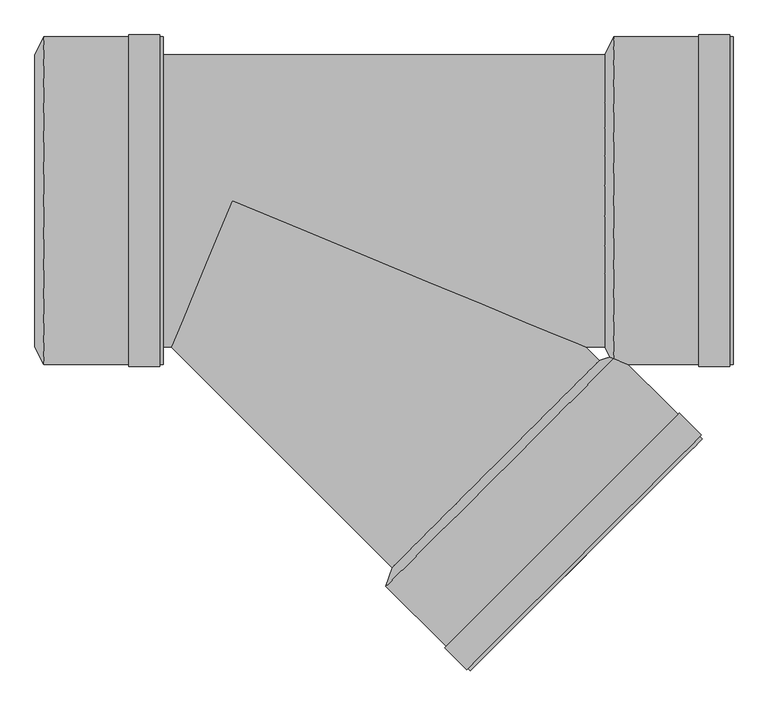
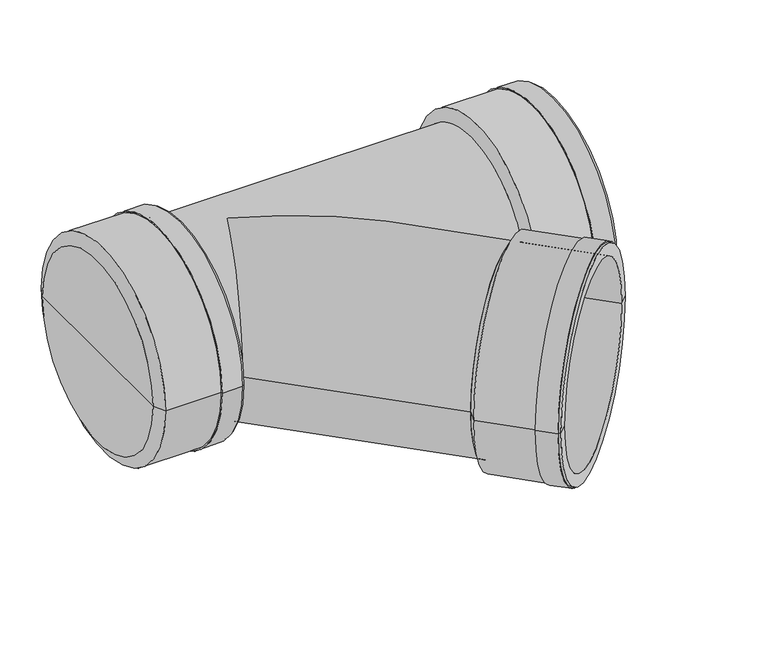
"""IFC4 building model written with IfcOpenShell, lengths in millimetres: pipe fitting geometry, pf_KGEA : pf_KGEA."""

from ifc_helpers import new_model, si_unit, frame, origin, place, context, project, spatial, polyline, circle_curve, ellipse_curve, source, transform, mapped, element, save
from ifc_brep_helpers import plane_surface, cylinder_surface, revolved_surface, advanced_brep


def pipe_fitting_b3f756ff(model_context):
    return source(origin(), model_context, "Body", "AdvancedBrep", [
        advanced_brep(
        [(273.3674816, -626.9208722, 0.0), (626.9208722, -273.3674816, 0.0), (658.8820987, -262.7608799, 0.0), (262.7608799, -658.8820987, 0.0), (450.1441769, -450.1441769, 0.0), (406.9399526, -803.0611714, 0.0), (803.0611714, -406.9399526, 0.0), (781.7772573, -428.2238667, 0.0), (428.2238667, -781.7772573, 0.0), (402.8387332, -798.9599521, 0.0), (798.9599521, -402.8387332, 0.0), (400.4345702, -801.3641151, 0.0), (801.3641151, -400.4345702, 0.0), (363.0286215, -763.9581664, 0.0), (763.9581664, -363.0286215, 0.0), (365.4327845, -761.5540033, 0.0), (761.5540033, -365.4327845, 0.0), (284.044794, -637.5981846, 0.0), (637.5981846, -284.044794, 0.0), (460.8214893, -460.8214893, 0.0)],
        [
            (0, 1, circle_curve(frame((450.1441769, -450.1441769, 0.0), z_axis=(0.7071067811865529, -0.7071067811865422, 0.0), x_axis=(0.7071067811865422, 0.7071067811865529, 0.0)), 250.0)),
            (1, 2),
            (2, 3, circle_curve(frame((460.8214893, -460.8214893, 0.0), z_axis=(-0.7071067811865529, 0.7071067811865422, 0.0), x_axis=(0.7071067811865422, 0.7071067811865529, 0.0)), 280.1)),
            (3, 0),
            (1, 0, circle_curve(frame((450.1441769, -450.1441769, 0.0), z_axis=(0.7071067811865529, -0.7071067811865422, 0.0), x_axis=(0.7071067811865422, 0.7071067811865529, 0.0)), 250.0)),
            (3, 2, circle_curve(frame((460.8214893, -460.8214893, 0.0), z_axis=(-0.7071067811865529, 0.7071067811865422, 0.0), x_axis=(0.7071067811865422, 0.7071067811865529, 0.0)), 280.1)),
            (4, 1),
            (0, 4),
            (5, 6, circle_curve(frame((605.000562, -605.000562, 0.0), z_axis=(0.7071067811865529, -0.7071067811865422, 0.0), x_axis=(0.7071067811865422, 0.7071067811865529, 0.0)), 280.1)),
            (6, 7),
            (7, 8, circle_curve(frame((605.000562, -605.000562, 0.0), z_axis=(-0.7071067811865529, 0.7071067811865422, 0.0), x_axis=(0.7071067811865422, 0.7071067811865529, 0.0)), 250.0)),
            (8, 5),
            (6, 5, circle_curve(frame((605.000562, -605.000562, 0.0), z_axis=(0.7071067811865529, -0.7071067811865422, 0.0), x_axis=(0.7071067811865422, 0.7071067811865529, 0.0)), 280.1)),
            (8, 7, circle_curve(frame((605.000562, -605.000562, 0.0), z_axis=(-0.7071067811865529, 0.7071067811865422, 0.0), x_axis=(0.7071067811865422, 0.7071067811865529, 0.0)), 250.0)),
            (9, 10, circle_curve(frame((600.8993427, -600.8993427, 0.0), z_axis=(0.7071067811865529, -0.7071067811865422, 0.0), x_axis=(0.7071067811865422, 0.7071067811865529, 0.0)), 280.1)),
            (10, 6),
            (5, 9),
            (10, 9, circle_curve(frame((600.8993427, -600.8993427, 0.0), z_axis=(0.7071067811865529, -0.7071067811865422, 0.0), x_axis=(0.7071067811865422, 0.7071067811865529, 0.0)), 280.1)),
            (11, 12, circle_curve(frame((600.8993427, -600.8993427, 0.0), z_axis=(0.7071067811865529, -0.7071067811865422, 0.0), x_axis=(0.7071067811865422, 0.7071067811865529, 0.0)), 283.5)),
            (12, 10),
            (9, 11),
            (12, 11, circle_curve(frame((600.8993427, -600.8993427, 0.0), z_axis=(0.7071067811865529, -0.7071067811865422, 0.0), x_axis=(0.7071067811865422, 0.7071067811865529, 0.0)), 283.5)),
            (13, 14, circle_curve(frame((563.4933939, -563.4933939, 0.0), z_axis=(0.7071067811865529, -0.7071067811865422, 0.0), x_axis=(0.7071067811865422, 0.7071067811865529, 0.0)), 283.5)),
            (14, 12),
            (11, 13),
            (14, 13, circle_curve(frame((563.4933939, -563.4933939, 0.0), z_axis=(0.7071067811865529, -0.7071067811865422, 0.0), x_axis=(0.7071067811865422, 0.7071067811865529, 0.0)), 283.5)),
            (15, 16, circle_curve(frame((563.4933939, -563.4933939, 0.0), z_axis=(0.7071067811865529, -0.7071067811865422, 0.0), x_axis=(0.7071067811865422, 0.7071067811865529, 0.0)), 280.1)),
            (16, 14),
            (13, 15),
            (16, 15, circle_curve(frame((563.4933939, -563.4933939, 0.0), z_axis=(0.7071067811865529, -0.7071067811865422, 0.0), x_axis=(0.7071067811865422, 0.7071067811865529, 0.0)), 280.1)),
            (2, 16),
            (15, 3),
            (17, 18, circle_curve(frame((460.8214893, -460.8214893, 0.0), z_axis=(0.7071067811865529, -0.7071067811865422, 0.0), x_axis=(0.7071067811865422, 0.7071067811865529, 0.0)), 250.0)),
            (18, 19),
            (19, 17),
            (18, 17, circle_curve(frame((460.8214893, -460.8214893, 0.0), z_axis=(0.7071067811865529, -0.7071067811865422, 0.0), x_axis=(0.7071067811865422, 0.7071067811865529, 0.0)), 250.0)),
            (7, 18),
            (17, 8),
        ],
        [
            revolved_surface(polyline([(658.8820987, -262.7608799, 0.0), (626.9208722, -273.3674816, 0.0)]), (450.1441769, -450.1441769, 0.0), (-0.7071067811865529, 0.7071067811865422, 0.0)),
            plane_surface(frame((450.1441769, -450.1441769, 0.0), z_axis=(-0.7071067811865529, 0.7071067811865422, 0.0), x_axis=(0.7071067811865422, 0.7071067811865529, 0.0))),
            plane_surface(frame((605.000562, -605.000562, 0.0), z_axis=(0.7071067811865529, -0.7071067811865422, 0.0), x_axis=(0.7071067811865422, 0.7071067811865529, 0.0))),
            cylinder_surface(frame((450.1441769, -450.1441769, 0.0), z_axis=(-0.7071067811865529, 0.7071067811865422, 0.0), x_axis=(0.7071067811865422, 0.7071067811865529, 0.0)), 280.1),
            plane_surface(frame((600.8993427, -600.8993427, 0.0), z_axis=(0.7071067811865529, -0.7071067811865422, 0.0), x_axis=(0.7071067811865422, 0.7071067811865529, 0.0))),
            cylinder_surface(frame((450.1441769, -450.1441769, 0.0), z_axis=(-0.7071067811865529, 0.7071067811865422, 0.0), x_axis=(0.7071067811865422, 0.7071067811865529, 0.0)), 283.5),
            plane_surface(frame((563.4933939, -563.4933939, 0.0), z_axis=(-0.7071067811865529, 0.7071067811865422, 0.0), x_axis=(0.7071067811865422, 0.7071067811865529, 0.0))),
            plane_surface(frame((460.8214893, -460.8214893, 0.0), z_axis=(0.7071067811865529, -0.7071067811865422, 0.0), x_axis=(0.7071067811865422, 0.7071067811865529, 0.0))),
            revolved_surface(polyline([(637.5981845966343, -284.0447940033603, 0.0), (781.777257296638, -428.2238667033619, 0.0)]), (450.1441769, -450.1441769, 0.0), (-0.7071067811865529, 0.7071067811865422, 0.0)),
        ],
        [
            (0, [[1, 2, 3, 4]]),
            (0, [[5, -4, 6, -2]]),
            (1, [[7, -1, 8]]),
            (1, [[-8, -5, -7]]),
            (2, [[9, 10, 11, 12]]),
            (2, [[13, -12, 14, -10]]),
            (3, [[15, 16, -9, 17]]),
            (3, [[18, -17, -13, -16]]),
            (4, [[19, 20, -15, 21]]),
            (4, [[22, -21, -18, -20]]),
            (5, [[23, 24, -19, 25]]),
            (5, [[26, -25, -22, -24]]),
            (6, [[27, 28, -23, 29]]),
            (6, [[30, -29, -26, -28]]),
            (3, [[-3, 31, -27, 32]]),
            (3, [[-6, -32, -30, -31]]),
            (7, [[33, 34, 35]]),
            (7, [[36, -35, -34]]),
            (8, [[-11, 37, -33, 38]]),
            (8, [[-14, -38, -36, -37]]),
        ],
    ),
        advanced_brep(
        [(636.6, -250.0, 0.0), (636.6, 250.0, 0.0), (651.7, 280.1, 0.0), (651.7, -280.1, 0.0), (636.6, 0.0, 0.0), (855.6, -280.1, 0.0), (855.6, 280.1, 0.0), (855.6, 250.0, 0.0), (855.6, -250.0, 0.0), (849.8, -280.1, 0.0), (849.8, 280.1, 0.0), (849.8, -283.5, 0.0), (849.8, 283.5, 0.0), (796.9, -283.5, 0.0), (796.9, 283.5, 0.0), (796.9, -280.1, 0.0), (796.9, 280.1, 0.0), (651.7, -250.0, 0.0), (651.7, 250.0, 0.0), (651.7, 0.0, 0.0)],
        [
            (0, 1, circle_curve(frame((636.6, 0.0, 0.0), z_axis=(1.0, 0.0, 0.0), x_axis=(0.0, 1.0, 0.0)), 250.0)),
            (1, 2),
            (2, 3, circle_curve(frame((651.7, 0.0, 0.0), z_axis=(-1.0, 0.0, 0.0), x_axis=(0.0, 1.0, 0.0)), 280.1)),
            (3, 0),
            (1, 0, circle_curve(frame((636.6, 0.0, 0.0), z_axis=(1.0, 0.0, 0.0), x_axis=(0.0, 1.0, 0.0)), 250.0)),
            (3, 2, circle_curve(frame((651.7, 0.0, 0.0), z_axis=(-1.0, 0.0, 0.0), x_axis=(0.0, 1.0, 0.0)), 280.1)),
            (4, 1),
            (0, 4),
            (5, 6, circle_curve(frame((855.6, 0.0, 0.0), z_axis=(1.0, 0.0, 0.0), x_axis=(0.0, 1.0, 0.0)), 280.1)),
            (6, 7),
            (7, 8, circle_curve(frame((855.6, 0.0, 0.0), z_axis=(-1.0, 0.0, 0.0), x_axis=(0.0, 1.0, 0.0)), 250.0)),
            (8, 5),
            (6, 5, circle_curve(frame((855.6, 0.0, 0.0), z_axis=(1.0, 0.0, 0.0), x_axis=(0.0, 1.0, 0.0)), 280.1)),
            (8, 7, circle_curve(frame((855.6, 0.0, 0.0), z_axis=(-1.0, 0.0, 0.0), x_axis=(0.0, 1.0, 0.0)), 250.0)),
            (9, 10, circle_curve(frame((849.8, 0.0, 0.0), z_axis=(1.0, 0.0, 0.0), x_axis=(0.0, 1.0, 0.0)), 280.1)),
            (10, 6),
            (5, 9),
            (10, 9, circle_curve(frame((849.8, 0.0, 0.0), z_axis=(1.0, 0.0, 0.0), x_axis=(0.0, 1.0, 0.0)), 280.1)),
            (11, 12, circle_curve(frame((849.8, 0.0, 0.0), z_axis=(1.0, 0.0, 0.0), x_axis=(0.0, 1.0, 0.0)), 283.5)),
            (12, 10),
            (9, 11),
            (12, 11, circle_curve(frame((849.8, 0.0, 0.0), z_axis=(1.0, 0.0, 0.0), x_axis=(0.0, 1.0, 0.0)), 283.5)),
            (13, 14, circle_curve(frame((796.9, 0.0, 0.0), z_axis=(1.0, 0.0, 0.0), x_axis=(0.0, 1.0, 0.0)), 283.5)),
            (14, 12),
            (11, 13),
            (14, 13, circle_curve(frame((796.9, 0.0, 0.0), z_axis=(1.0, 0.0, 0.0), x_axis=(0.0, 1.0, 0.0)), 283.5)),
            (15, 16, circle_curve(frame((796.9, 0.0, 0.0), z_axis=(1.0, 0.0, 0.0), x_axis=(0.0, 1.0, 0.0)), 280.1)),
            (16, 14),
            (13, 15),
            (16, 15, circle_curve(frame((796.9, 0.0, 0.0), z_axis=(1.0, 0.0, 0.0), x_axis=(0.0, 1.0, 0.0)), 280.1)),
            (2, 16),
            (15, 3),
            (17, 18, circle_curve(frame((651.7, 0.0, 0.0), z_axis=(1.0, 0.0, 0.0), x_axis=(0.0, 1.0, 0.0)), 250.0)),
            (18, 19),
            (19, 17),
            (18, 17, circle_curve(frame((651.7, 0.0, 0.0), z_axis=(1.0, 0.0, 0.0), x_axis=(0.0, 1.0, 0.0)), 250.0)),
            (7, 18),
            (17, 8),
        ],
        [
            revolved_surface(polyline([(651.7, 280.1, 0.0), (636.6, 250.0, 0.0)]), (636.6, 0.0, 0.0), (-1.0, 0.0, 0.0)),
            plane_surface(frame((636.6, 0.0, 0.0), z_axis=(-1.0, 0.0, 0.0), x_axis=(0.0, 1.0, 0.0))),
            plane_surface(frame((855.6, 0.0, 0.0), z_axis=(1.0, 0.0, 0.0), x_axis=(0.0, 1.0, 0.0))),
            cylinder_surface(frame((636.6, 0.0, 0.0), z_axis=(-1.0, 0.0, 0.0), x_axis=(0.0, 1.0, 0.0)), 280.1),
            plane_surface(frame((849.8, 0.0, 0.0), z_axis=(1.0, 0.0, 0.0), x_axis=(0.0, 1.0, 0.0))),
            cylinder_surface(frame((636.6, 0.0, 0.0), z_axis=(-1.0, 0.0, 0.0), x_axis=(0.0, 1.0, 0.0)), 283.5),
            plane_surface(frame((796.9, 0.0, 0.0), z_axis=(-1.0, 0.0, 0.0), x_axis=(0.0, 1.0, 0.0))),
            plane_surface(frame((651.7, 0.0, 0.0), z_axis=(1.0, 0.0, 0.0), x_axis=(0.0, 1.0, 0.0))),
            revolved_surface(polyline([(651.7, 250.0, 0.0), (855.6, 250.0, 0.0)]), (636.6, 0.0, 0.0), (-1.0, 0.0, 0.0)),
        ],
        [
            (0, [[1, 2, 3, 4]]),
            (0, [[5, -4, 6, -2]]),
            (1, [[7, -1, 8]]),
            (1, [[-8, -5, -7]]),
            (2, [[9, 10, 11, 12]]),
            (2, [[13, -12, 14, -10]]),
            (3, [[15, 16, -9, 17]]),
            (3, [[18, -17, -13, -16]]),
            (4, [[19, 20, -15, 21]]),
            (4, [[22, -21, -18, -20]]),
            (5, [[23, 24, -19, 25]]),
            (5, [[26, -25, -22, -24]]),
            (6, [[27, 28, -23, 29]]),
            (6, [[30, -29, -26, -28]]),
            (3, [[-3, 31, -27, 32]]),
            (3, [[-6, -32, -30, -31]]),
            (7, [[33, 34, 35]]),
            (7, [[36, -35, -34]]),
            (8, [[-11, 37, -33, 38]]),
            (8, [[-14, -38, -36, -37]]),
        ],
    ),
        advanced_brep(
        [(-336.8, -250.0, 0.0), (-336.8, 250.0, 0.0), (-321.7, 280.1, 0.0), (-321.7, -280.1, 0.0), (-336.8, 0.0, 0.0), (-117.8, -280.1, 0.0), (-117.8, 280.1, 0.0), (-117.8, 250.0, 0.0), (-117.8, -250.0, 0.0), (-123.6, -280.1, 0.0), (-123.6, 280.1, 0.0), (-123.6, -283.5, 0.0), (-123.6, 283.5, 0.0), (-176.5, -283.5, 0.0), (-176.5, 283.5, 0.0), (-176.5, -280.1, 0.0), (-176.5, 280.1, 0.0), (-321.7, -250.0, 0.0), (-321.7, 250.0, 0.0), (-321.7, 0.0, 0.0)],
        [
            (0, 1, circle_curve(frame((-336.8, 0.0, 0.0), z_axis=(1.0, 0.0, 0.0), x_axis=(0.0, 1.0, 0.0)), 250.0)),
            (1, 2),
            (2, 3, circle_curve(frame((-321.7, 0.0, 0.0), z_axis=(-1.0, 0.0, 0.0), x_axis=(0.0, 1.0, 0.0)), 280.1)),
            (3, 0),
            (1, 0, circle_curve(frame((-336.8, 0.0, 0.0), z_axis=(1.0, 0.0, 0.0), x_axis=(0.0, 1.0, 0.0)), 250.0)),
            (3, 2, circle_curve(frame((-321.7, 0.0, 0.0), z_axis=(-1.0, 0.0, 0.0), x_axis=(0.0, 1.0, 0.0)), 280.1)),
            (4, 1),
            (0, 4),
            (5, 6, circle_curve(frame((-117.8, 0.0, 0.0), z_axis=(1.0, 0.0, 0.0), x_axis=(0.0, 1.0, 0.0)), 280.1)),
            (6, 7),
            (7, 8, circle_curve(frame((-117.8, 0.0, 0.0), z_axis=(-1.0, 0.0, 0.0), x_axis=(0.0, 1.0, 0.0)), 250.0)),
            (8, 5),
            (6, 5, circle_curve(frame((-117.8, 0.0, 0.0), z_axis=(1.0, 0.0, 0.0), x_axis=(0.0, 1.0, 0.0)), 280.1)),
            (8, 7, circle_curve(frame((-117.8, 0.0, 0.0), z_axis=(-1.0, 0.0, 0.0), x_axis=(0.0, 1.0, 0.0)), 250.0)),
            (9, 10, circle_curve(frame((-123.6, 0.0, 0.0), z_axis=(1.0, 0.0, 0.0), x_axis=(0.0, 1.0, 0.0)), 280.1)),
            (10, 6),
            (5, 9),
            (10, 9, circle_curve(frame((-123.6, 0.0, 0.0), z_axis=(1.0, 0.0, 0.0), x_axis=(0.0, 1.0, 0.0)), 280.1)),
            (11, 12, circle_curve(frame((-123.6, 0.0, 0.0), z_axis=(1.0, 0.0, 0.0), x_axis=(0.0, 1.0, 0.0)), 283.5)),
            (12, 10),
            (9, 11),
            (12, 11, circle_curve(frame((-123.6, 0.0, 0.0), z_axis=(1.0, 0.0, 0.0), x_axis=(0.0, 1.0, 0.0)), 283.5)),
            (13, 14, circle_curve(frame((-176.5, 0.0, 0.0), z_axis=(1.0, 0.0, 0.0), x_axis=(0.0, 1.0, 0.0)), 283.5)),
            (14, 12),
            (11, 13),
            (14, 13, circle_curve(frame((-176.5, 0.0, 0.0), z_axis=(1.0, 0.0, 0.0), x_axis=(0.0, 1.0, 0.0)), 283.5)),
            (15, 16, circle_curve(frame((-176.5, 0.0, 0.0), z_axis=(1.0, 0.0, 0.0), x_axis=(0.0, 1.0, 0.0)), 280.1)),
            (16, 14),
            (13, 15),
            (16, 15, circle_curve(frame((-176.5, 0.0, 0.0), z_axis=(1.0, 0.0, 0.0), x_axis=(0.0, 1.0, 0.0)), 280.1)),
            (2, 16),
            (15, 3),
            (17, 18, circle_curve(frame((-321.7, 0.0, 0.0), z_axis=(1.0, 0.0, 0.0), x_axis=(0.0, 1.0, 0.0)), 250.0)),
            (18, 19),
            (19, 17),
            (18, 17, circle_curve(frame((-321.7, 0.0, 0.0), z_axis=(1.0, 0.0, 0.0), x_axis=(0.0, 1.0, 0.0)), 250.0)),
            (7, 18),
            (17, 8),
        ],
        [
            revolved_surface(polyline([(-321.7, 280.1, 0.0), (-336.8, 250.0, 0.0)]), (-336.8, 0.0, 0.0), (-1.0, 0.0, 0.0)),
            plane_surface(frame((-336.8, 0.0, 0.0), z_axis=(-1.0, 0.0, 0.0), x_axis=(0.0, 1.0, 0.0))),
            plane_surface(frame((-117.8, 0.0, 0.0), z_axis=(1.0, 0.0, 0.0), x_axis=(0.0, 1.0, 0.0))),
            cylinder_surface(frame((-336.8, 0.0, 0.0), z_axis=(-1.0, 0.0, 0.0), x_axis=(0.0, 1.0, 0.0)), 280.1),
            plane_surface(frame((-123.6, 0.0, 0.0), z_axis=(1.0, 0.0, 0.0), x_axis=(0.0, 1.0, 0.0))),
            cylinder_surface(frame((-336.8, 0.0, 0.0), z_axis=(-1.0, 0.0, 0.0), x_axis=(0.0, 1.0, 0.0)), 283.5),
            plane_surface(frame((-176.5, 0.0, 0.0), z_axis=(-1.0, 0.0, 0.0), x_axis=(0.0, 1.0, 0.0))),
            plane_surface(frame((-321.7, 0.0, 0.0), z_axis=(1.0, 0.0, 0.0), x_axis=(0.0, 1.0, 0.0))),
            revolved_surface(polyline([(-321.7, 250.0, 0.0), (-117.80000000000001, 250.0, 0.0)]), (-336.8, 0.0, 0.0), (-1.0, 0.0, 0.0)),
        ],
        [
            (0, [[1, 2, 3, 4]]),
            (0, [[5, -4, 6, -2]]),
            (1, [[7, -1, 8]]),
            (1, [[-8, -5, -7]]),
            (2, [[9, 10, 11, 12]]),
            (2, [[13, -12, 14, -10]]),
            (3, [[15, 16, -9, 17]]),
            (3, [[18, -17, -13, -16]]),
            (4, [[19, 20, -15, 21]]),
            (4, [[22, -21, -18, -20]]),
            (5, [[23, 24, -19, 25]]),
            (5, [[26, -25, -22, -24]]),
            (6, [[27, 28, -23, 29]]),
            (6, [[30, -29, -26, -28]]),
            (3, [[-3, 31, -27, 32]]),
            (3, [[-6, -32, -30, -31]]),
            (7, [[33, 34, 35]]),
            (7, [[36, -35, -34]]),
            (8, [[-11, 37, -33, 38]]),
            (8, [[-14, -38, -36, -37]]),
        ],
    ),
        advanced_brep(
        [(-321.7, -250.0, 0.0), (-321.7, 250.0, 0.0), (636.6, -250.0, 0.0), (636.6, 250.0, 0.0), (-103.5533906, -250.0, 0.0), (0.0, 0.0, 250.0), (603.5533906, -250.0, 0.0), (0.0, 0.0, -250.0), (273.3674816, -626.9208722, 0.0), (626.9208722, -273.3674816, 0.0)],
        [
            (0, 1, circle_curve(frame((-321.7, 0.0, 0.0), z_axis=(-1.0, 0.0, 0.0), x_axis=(0.0, 1.0, 0.0)), 250.0)),
            (1, 0, circle_curve(frame((-321.7, 0.0, 0.0), z_axis=(-1.0, 0.0, 0.0), x_axis=(0.0, 1.0, 0.0)), 250.0)),
            (2, 3, circle_curve(frame((636.6, 0.0, 0.0), z_axis=(1.0, 0.0, 0.0), x_axis=(0.0, 1.0, 0.0)), 250.0)),
            (3, 2, circle_curve(frame((636.6, 0.0, 0.0), z_axis=(1.0, 0.0, 0.0), x_axis=(0.0, 1.0, 0.0)), 250.0)),
            (0, 4),
            (4, 5, ellipse_curve(frame((0.0, 0.0, 0.0), z_axis=(-0.923879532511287, 0.38268343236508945, 0.0), x_axis=(-0.38268343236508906, -0.9238795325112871, 0.0)), 270.5980501, 250.0)),
            (5, 6, ellipse_curve(frame((0.0, 0.0, 0.0), z_axis=(0.3826834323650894, 0.9238795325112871, 0.0), x_axis=(-0.923879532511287, 0.38268343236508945, 0.0)), 653.2814824, 250.0)),
            (6, 2),
            (3, 1),
            (6, 7, ellipse_curve(frame((0.0, 0.0, 0.0), z_axis=(0.3826834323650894, 0.9238795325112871, 0.0), x_axis=(-0.923879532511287, 0.38268343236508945, 0.0)), 653.2814824, 250.0)),
            (7, 4, ellipse_curve(frame((0.0, 0.0, 0.0), z_axis=(-0.923879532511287, 0.38268343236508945, 0.0), x_axis=(-0.38268343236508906, -0.9238795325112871, 0.0)), 270.5980501, 250.0)),
            (8, 9, circle_curve(frame((450.1441769, -450.1441769, 0.0), z_axis=(0.7071067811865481, -0.707106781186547, 0.0), x_axis=(0.707106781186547, 0.7071067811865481, 0.0)), 250.0)),
            (9, 8, circle_curve(frame((450.1441769, -450.1441769, 0.0), z_axis=(0.7071067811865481, -0.707106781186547, 0.0), x_axis=(0.707106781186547, 0.7071067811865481, 0.0)), 250.0)),
            (9, 6),
            (4, 8),
        ],
        [
            plane_surface(frame((-321.7, 0.0, 0.0), z_axis=(-1.0, 0.0, 0.0), x_axis=(0.0, 0.0, 1.0))),
            plane_surface(frame((636.6, 0.0, 0.0), z_axis=(1.0, 0.0, 0.0), x_axis=(0.0, 0.0, 1.0))),
            cylinder_surface(frame((-321.7, 0.0, 0.0), z_axis=(-1.0, 0.0, 0.0), x_axis=(0.0, 1.0, 0.0)), 250.0),
            plane_surface(frame((450.1441769, -450.1441769, 0.0), z_axis=(0.7071067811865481, -0.707106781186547, 0.0), x_axis=(0.0, 0.0, 1.0))),
            cylinder_surface(frame((0.0, 0.0, 0.0), z_axis=(-0.7071067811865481, 0.707106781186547, 0.0), x_axis=(0.707106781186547, 0.7071067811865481, 0.0)), 250.0),
        ],
        [
            (0, [[1, 2]]),
            (1, [[3, 4]]),
            (2, [[-1, 5, 6, 7, 8, -4, 9]]),
            (2, [[-2, -9, -3, -8, 10, 11, -5]]),
            (3, [[12, 13]]),
            (4, [[-13, 14, -7, -6, 15]]),
            (4, [[-12, -15, -11, -10, -14]]),
        ],
    ),
    ])


if __name__ == "__main__":
    model = new_model("IFC4")
    model_context = context("Model", 3, world=origin())
    ifc_project = project(units=[si_unit("LENGTHUNIT", "METRE", prefix="MILLI")], contexts=[model_context])
    site = spatial("IfcSite", under=ifc_project)
    building = spatial("IfcBuilding", under=site)
    placement = place(None, origin())
    pipe_fitting_shape = pipe_fitting_b3f756ff(model_context)
    element("IfcPipeFitting", 1, ObjectType="pf_KGEA : pf_KGEA", at=placement, inside=building, context=model_context, shape_type="MappedRepresentation", body=[
        mapped(pipe_fitting_shape, transform((0.0, 0.0, 0.0), x_axis=(1.0, 0.0, 0.0), y_axis=(0.0, 1.0, 0.0), z_axis=(0.0, 0.0, 1.0))),
    ])
    save(model, "model.ifc")
